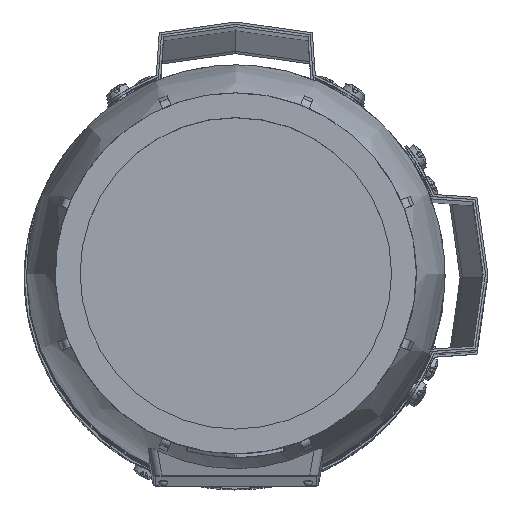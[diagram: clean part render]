
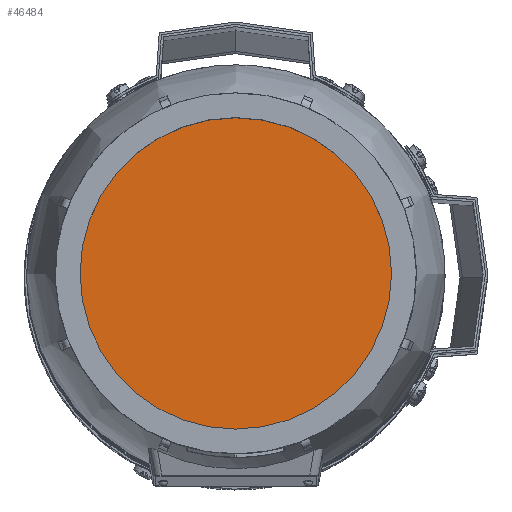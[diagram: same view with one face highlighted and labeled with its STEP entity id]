
A CAD part, top view. The second image highlights one B-rep face of the part: STEP entity #46484.
In plain terms, the highlighted planar face has unit normal (0, 0, 1) as drawn and (0, 1, 0) by its records, which use the part's own axes.
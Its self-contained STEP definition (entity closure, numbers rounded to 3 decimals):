
#9817=ORIENTED_EDGE('',*,*,#23873,.F.);
#23873=EDGE_CURVE('',#30901,#30901,#35631,.T.);
#30901=VERTEX_POINT('',#67110);
#35631=CIRCLE('',#49023,67.736);
#37754=EDGE_LOOP('',(#9817));
#41108=FACE_BOUND('',#37754,.T.);
#44480=PLANE('',#49022);
#46484=ADVANCED_FACE('',(#41108),#44480,.F.);
#49022=AXIS2_PLACEMENT_3D('',#67108,#53619,#53620);
#49023=AXIS2_PLACEMENT_3D('',#67109,#53621,#53622);
#53619=DIRECTION('',(0.,-1.,0.));
#53620=DIRECTION('',(0.,0.,-1.));
#53621=DIRECTION('',(0.,-1.,0.));
#53622=DIRECTION('',(0.,0.,-1.));
#67108=CARTESIAN_POINT('',(0.,154.,0.));
#67109=CARTESIAN_POINT('',(0.,154.,0.));
#67110=CARTESIAN_POINT('',(0.,154.,-67.736));
